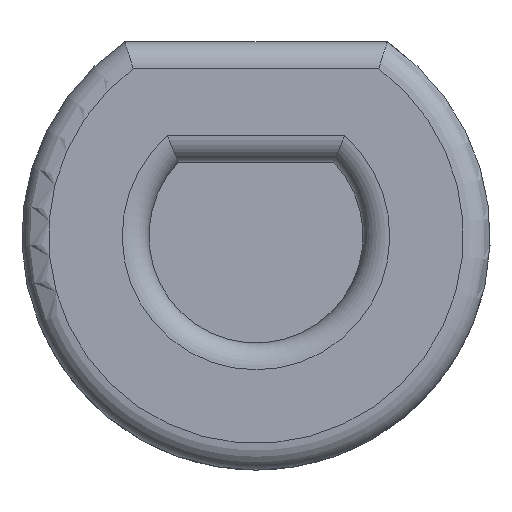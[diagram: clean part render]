
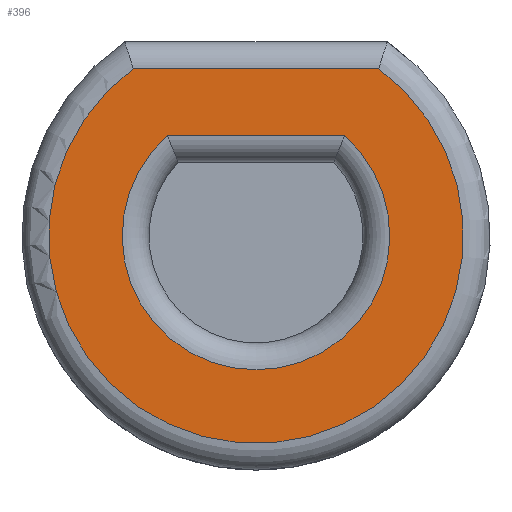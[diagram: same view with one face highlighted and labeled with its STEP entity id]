
A CAD part, front view. The second image highlights one B-rep face of the part: STEP entity #396.
In plain terms, the highlighted planar face has unit normal (0, -1, 0).
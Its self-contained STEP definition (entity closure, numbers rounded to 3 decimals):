
#89 = TOROIDAL_SURFACE('',#90,3.1,0.4);
#90 = AXIS2_PLACEMENT_3D('',#91,#92,#93);
#91 = CARTESIAN_POINT('',(0.,2.09,0.));
#92 = DIRECTION('',(0.,-1.,0.));
#93 = DIRECTION('',(0.56,0.,0.829));
#187 = CYLINDRICAL_SURFACE('',#188,0.4);
#188 = AXIS2_PLACEMENT_3D('',#189,#190,#191);
#189 = CARTESIAN_POINT('',(1.96,2.09,2.5));
#190 = DIRECTION('',(-1.,0.,0.));
#191 = DIRECTION('',(0.,0.,1.));
#203 = VERTEX_POINT('',#204);
#204 = CARTESIAN_POINT('',(1.833,1.69,2.5));
#254 = VERTEX_POINT('',#255);
#255 = CARTESIAN_POINT('',(-1.833,1.69,2.5));
#303 = EDGE_CURVE('',#203,#254,#304,.T.);
#304 = SURFACE_CURVE('',#305,(#310,#317),.PCURVE_S1.);
#305 = CIRCLE('',#306,3.1);
#306 = AXIS2_PLACEMENT_3D('',#307,#308,#309);
#307 = CARTESIAN_POINT('',(0.,1.69,0.));
#308 = DIRECTION('',(0.,1.,0.));
#309 = DIRECTION('',(0.56,0.,0.829));
#310 = PCURVE('',#89,#311);
#311 = DEFINITIONAL_REPRESENTATION('',(#312),#316);
#312 = LINE('',#313,#314);
#313 = CARTESIAN_POINT('',(-0.,1.571));
#314 = VECTOR('',#315,1.);
#315 = DIRECTION('',(-1.,0.));
#316 = ( GEOMETRIC_REPRESENTATION_CONTEXT(2) 
PARAMETRIC_REPRESENTATION_CONTEXT() REPRESENTATION_CONTEXT('2D SPACE',''
  ) );
#317 = PCURVE('',#318,#323);
#318 = PLANE('',#319);
#319 = AXIS2_PLACEMENT_3D('',#320,#321,#322);
#320 = CARTESIAN_POINT('',(0.,1.69,0.));
#321 = DIRECTION('',(0.,-1.,0.));
#322 = DIRECTION('',(1.,0.,0.));
#323 = DEFINITIONAL_REPRESENTATION('',(#324),#332);
#324 = ( BOUNDED_CURVE() B_SPLINE_CURVE(2,(#325,#326,#327,#328,#329,#330
,#331),.UNSPECIFIED.,.T.,.F.) B_SPLINE_CURVE_WITH_KNOTS((1,2,2,2,2,1),(
    -2.094,0.,2.094,4.189,6.283,
8.378),.UNSPECIFIED.) CURVE() GEOMETRIC_REPRESENTATION_ITEM() 
RATIONAL_B_SPLINE_CURVE((1.,0.5,1.,0.5,1.,0.5,1.)) REPRESENTATION_ITEM(
  '') );
#325 = CARTESIAN_POINT('',(1.736,2.569));
#326 = CARTESIAN_POINT('',(6.185,-0.438));
#327 = CARTESIAN_POINT('',(1.357,-2.787));
#328 = CARTESIAN_POINT('',(-3.471,-5.137));
#329 = CARTESIAN_POINT('',(-3.092,0.219));
#330 = CARTESIAN_POINT('',(-2.713,5.575));
#331 = CARTESIAN_POINT('',(1.736,2.569));
#332 = ( GEOMETRIC_REPRESENTATION_CONTEXT(2) 
PARAMETRIC_REPRESENTATION_CONTEXT() REPRESENTATION_CONTEXT('2D SPACE',''
  ) );
#374 = EDGE_CURVE('',#203,#254,#375,.T.);
#375 = SURFACE_CURVE('',#376,(#380,#387),.PCURVE_S1.);
#376 = LINE('',#377,#378);
#377 = CARTESIAN_POINT('',(1.96,1.69,2.5));
#378 = VECTOR('',#379,1.);
#379 = DIRECTION('',(-1.,0.,0.));
#380 = PCURVE('',#187,#381);
#381 = DEFINITIONAL_REPRESENTATION('',(#382),#386);
#382 = LINE('',#383,#384);
#383 = CARTESIAN_POINT('',(-1.571,0.));
#384 = VECTOR('',#385,1.);
#385 = DIRECTION('',(-0.,1.));
#386 = ( GEOMETRIC_REPRESENTATION_CONTEXT(2) 
PARAMETRIC_REPRESENTATION_CONTEXT() REPRESENTATION_CONTEXT('2D SPACE',''
  ) );
#387 = PCURVE('',#318,#388);
#388 = DEFINITIONAL_REPRESENTATION('',(#389),#393);
#389 = LINE('',#390,#391);
#390 = CARTESIAN_POINT('',(1.96,2.5));
#391 = VECTOR('',#392,1.);
#392 = DIRECTION('',(-1.,0.));
#393 = ( GEOMETRIC_REPRESENTATION_CONTEXT(2) 
PARAMETRIC_REPRESENTATION_CONTEXT() REPRESENTATION_CONTEXT('2D SPACE',''
  ) );
#396 = ADVANCED_FACE('',(#397,#401),#318,.T.);
#397 = FACE_BOUND('',#398,.T.);
#398 = EDGE_LOOP('',(#399,#400));
#399 = ORIENTED_EDGE('',*,*,#303,.F.);
#400 = ORIENTED_EDGE('',*,*,#374,.T.);
#401 = FACE_BOUND('',#402,.T.);
#402 = EDGE_LOOP('',(#403,#433));
#403 = ORIENTED_EDGE('',*,*,#404,.F.);
#404 = EDGE_CURVE('',#405,#407,#409,.T.);
#405 = VERTEX_POINT('',#406);
#406 = CARTESIAN_POINT('',(1.323,1.69,1.5));
#407 = VERTEX_POINT('',#408);
#408 = CARTESIAN_POINT('',(-1.323,1.69,1.5));
#409 = SURFACE_CURVE('',#410,(#414,#421),.PCURVE_S1.);
#410 = LINE('',#411,#412);
#411 = CARTESIAN_POINT('',(1.162,1.69,1.5));
#412 = VECTOR('',#413,1.);
#413 = DIRECTION('',(-1.,0.,0.));
#414 = PCURVE('',#318,#415);
#415 = DEFINITIONAL_REPRESENTATION('',(#416),#420);
#416 = LINE('',#417,#418);
#417 = CARTESIAN_POINT('',(1.162,1.5));
#418 = VECTOR('',#419,1.);
#419 = DIRECTION('',(-1.,0.));
#420 = ( GEOMETRIC_REPRESENTATION_CONTEXT(2) 
PARAMETRIC_REPRESENTATION_CONTEXT() REPRESENTATION_CONTEXT('2D SPACE',''
  ) );
#421 = PCURVE('',#422,#427);
#422 = CYLINDRICAL_SURFACE('',#423,0.4);
#423 = AXIS2_PLACEMENT_3D('',#424,#425,#426);
#424 = CARTESIAN_POINT('',(1.162,2.09,1.5));
#425 = DIRECTION('',(-1.,0.,0.));
#426 = DIRECTION('',(0.,-1.,0.));
#427 = DEFINITIONAL_REPRESENTATION('',(#428),#432);
#428 = LINE('',#429,#430);
#429 = CARTESIAN_POINT('',(-0.,0.));
#430 = VECTOR('',#431,1.);
#431 = DIRECTION('',(-0.,1.));
#432 = ( GEOMETRIC_REPRESENTATION_CONTEXT(2) 
PARAMETRIC_REPRESENTATION_CONTEXT() REPRESENTATION_CONTEXT('2D SPACE',''
  ) );
#433 = ORIENTED_EDGE('',*,*,#434,.T.);
#434 = EDGE_CURVE('',#405,#407,#435,.T.);
#435 = SURFACE_CURVE('',#436,(#441,#452),.PCURVE_S1.);
#436 = CIRCLE('',#437,2.);
#437 = AXIS2_PLACEMENT_3D('',#438,#439,#440);
#438 = CARTESIAN_POINT('',(0.,1.69,0.));
#439 = DIRECTION('',(0.,1.,0.));
#440 = DIRECTION('',(0.726,0.,0.688));
#441 = PCURVE('',#318,#442);
#442 = DEFINITIONAL_REPRESENTATION('',(#443),#451);
#443 = ( BOUNDED_CURVE() B_SPLINE_CURVE(2,(#444,#445,#446,#447,#448,#449
,#450),.UNSPECIFIED.,.T.,.F.) B_SPLINE_CURVE_WITH_KNOTS((1,2,2,2,2,1),(
    -2.094,0.,2.094,4.189,6.283,
8.378),.UNSPECIFIED.) CURVE() GEOMETRIC_REPRESENTATION_ITEM() 
RATIONAL_B_SPLINE_CURVE((1.,0.5,1.,0.5,1.,0.5,1.)) REPRESENTATION_ITEM(
  '') );
#444 = CARTESIAN_POINT('',(1.452,1.375));
#445 = CARTESIAN_POINT('',(3.834,-1.141));
#446 = CARTESIAN_POINT('',(0.465,-1.945));
#447 = CARTESIAN_POINT('',(-2.905,-2.75));
#448 = CARTESIAN_POINT('',(-1.917,0.57));
#449 = CARTESIAN_POINT('',(-0.929,3.891));
#450 = CARTESIAN_POINT('',(1.452,1.375));
#451 = ( GEOMETRIC_REPRESENTATION_CONTEXT(2) 
PARAMETRIC_REPRESENTATION_CONTEXT() REPRESENTATION_CONTEXT('2D SPACE',''
  ) );
#452 = PCURVE('',#453,#458);
#453 = TOROIDAL_SURFACE('',#454,2.,0.4);
#454 = AXIS2_PLACEMENT_3D('',#455,#456,#457);
#455 = CARTESIAN_POINT('',(0.,2.09,0.));
#456 = DIRECTION('',(0.,-1.,0.));
#457 = DIRECTION('',(0.726,0.,0.688));
#458 = DEFINITIONAL_REPRESENTATION('',(#459),#463);
#459 = LINE('',#460,#461);
#460 = CARTESIAN_POINT('',(-0.,1.571));
#461 = VECTOR('',#462,1.);
#462 = DIRECTION('',(-1.,0.));
#463 = ( GEOMETRIC_REPRESENTATION_CONTEXT(2) 
PARAMETRIC_REPRESENTATION_CONTEXT() REPRESENTATION_CONTEXT('2D SPACE',''
  ) );
